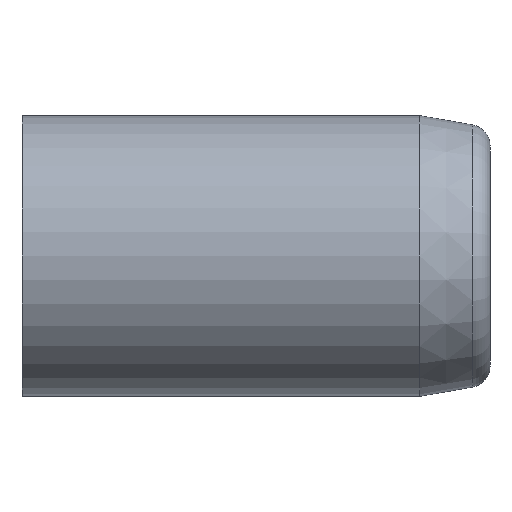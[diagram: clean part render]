
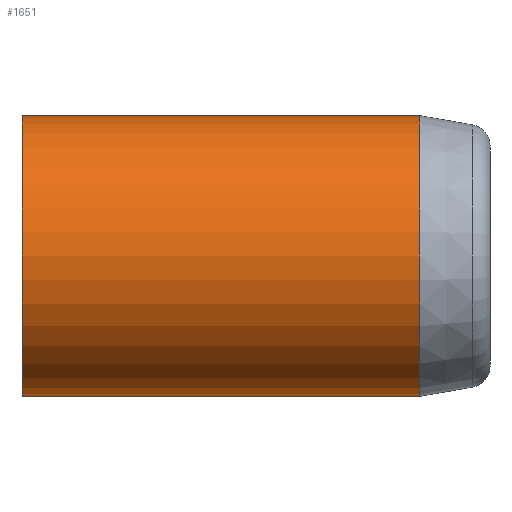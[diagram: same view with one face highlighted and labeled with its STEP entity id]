
A CAD part, left-side view. The second image highlights one B-rep face of the part: STEP entity #1651.
In plain terms, the highlighted cylindrical face has radius 6 mm (diameter 12 mm), a partial arc.
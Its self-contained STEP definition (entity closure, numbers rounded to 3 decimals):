
#259 = VECTOR ( 'NONE', #9265, 1000. ) ;
#289 = VECTOR ( 'NONE', #9252, 1000. ) ;
#624 = CARTESIAN_POINT ( 'NONE',  ( 0., -7., -6. ) ) ;
#647 = CARTESIAN_POINT ( 'NONE',  ( 0., 10., -6. ) ) ;
#664 = CARTESIAN_POINT ( 'NONE',  ( 0., 10., 6. ) ) ;
#707 = CARTESIAN_POINT ( 'NONE',  ( 0., -7., 6. ) ) ;
#1651 = ADVANCED_FACE ( 'NONE', ( #2239 ), #2258, .T. ) ;
#1773 = EDGE_CURVE ( 'NONE', #9817, #9845, #6032, .T. ) ;
#1808 = EDGE_CURVE ( 'NONE', #9822, #9798, #10774, .T. ) ;
#2239 = FACE_OUTER_BOUND ( 'NONE', #10251, .T. ) ;
#2241 = CARTESIAN_POINT ( 'NONE',  ( 0., -15., 0. ) ) ;
#2243 = DIRECTION ( 'NONE',  ( 0., 1., 0. ) ) ;
#2247 = DIRECTION ( 'NONE',  ( 0., 0., 1. ) ) ;
#2258 = CYLINDRICAL_SURFACE ( 'NONE', #4777, 6. ) ;
#4777 = AXIS2_PLACEMENT_3D ( 'NONE', #2241, #2243, #2247 ) ;
#5918 = EDGE_CURVE ( 'NONE', #9845, #9822, #9251, .T. ) ;
#5919 = EDGE_CURVE ( 'NONE', #9817, #9798, #9264, .T. ) ;
#6032 = CIRCLE ( 'NONE', #6075, 6. ) ;
#6075 = AXIS2_PLACEMENT_3D ( 'NONE', #7030, #7008, #7035 ) ;
#7008 = DIRECTION ( 'NONE',  ( 0., 1., 0. ) ) ;
#7030 = CARTESIAN_POINT ( 'NONE',  ( 0., -7., 0. ) ) ;
#7035 = DIRECTION ( 'NONE',  ( 0., 0., -1. ) ) ;
#7089 = DIRECTION ( 'NONE',  ( 0., -1., 0. ) ) ;
#7096 = DIRECTION ( 'NONE',  ( 0., 0., 1. ) ) ;
#7129 = CARTESIAN_POINT ( 'NONE',  ( 0., 10., 0. ) ) ;
#9241 = CARTESIAN_POINT ( 'NONE',  ( 0., -15., -6. ) ) ;
#9242 = CARTESIAN_POINT ( 'NONE',  ( 0., -15., 6. ) ) ;
#9251 = LINE ( 'NONE', #9242, #289 ) ;
#9252 = DIRECTION ( 'NONE',  ( 0., 1., 0. ) ) ;
#9264 = LINE ( 'NONE', #9241, #259 ) ;
#9265 = DIRECTION ( 'NONE',  ( 0., 1., 0. ) ) ;
#9798 = VERTEX_POINT ( 'NONE', #647 ) ;
#9817 = VERTEX_POINT ( 'NONE', #624 ) ;
#9822 = VERTEX_POINT ( 'NONE', #664 ) ;
#9845 = VERTEX_POINT ( 'NONE', #707 ) ;
#10251 = EDGE_LOOP ( 'NONE', ( #10516, #10493, #10590, #10575 ) ) ;
#10493 = ORIENTED_EDGE ( 'NONE', *, *, #1773, .T. ) ;
#10516 = ORIENTED_EDGE ( 'NONE', *, *, #5919, .F. ) ;
#10575 = ORIENTED_EDGE ( 'NONE', *, *, #1808, .T. ) ;
#10590 = ORIENTED_EDGE ( 'NONE', *, *, #5918, .T. ) ;
#10774 = CIRCLE ( 'NONE', #10777, 6. ) ;
#10777 = AXIS2_PLACEMENT_3D ( 'NONE', #7129, #7089, #7096 ) ;
